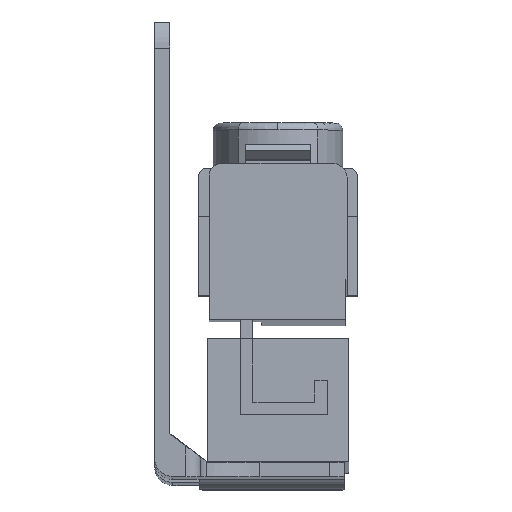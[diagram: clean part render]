
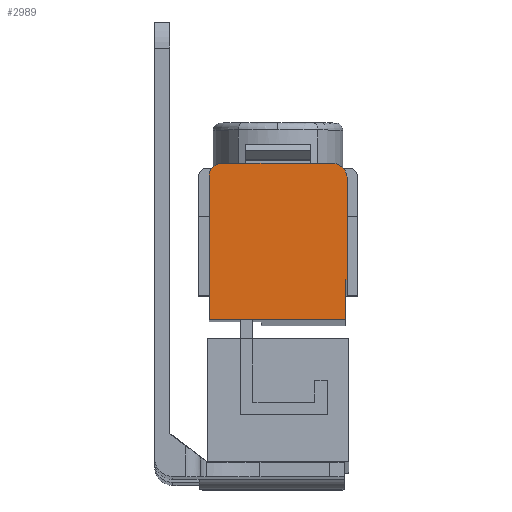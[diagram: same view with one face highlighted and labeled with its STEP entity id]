
A CAD part, front view. The second image highlights one B-rep face of the part: STEP entity #2989.
In plain terms, the highlighted planar face has unit normal (0, -1, 0.007).
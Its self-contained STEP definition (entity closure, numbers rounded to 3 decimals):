
#392 = PLANE ( 'NONE',  #3519 ) ;
#393 = CARTESIAN_POINT ( 'NONE',  ( 9.25, -24.644, -6.282 ) ) ;
#394 = DIRECTION ( 'NONE',  ( 0., -1., 0.007 ) ) ;
#395 = DIRECTION ( 'NONE',  ( 0., -0.007, -1. ) ) ;
#1103 = CARTESIAN_POINT ( 'NONE',  ( 26.25, -24.782, -26.031 ) ) ;
#1104 = DIRECTION ( 'NONE',  ( 0., 0.007, 1. ) ) ;
#1105 = CARTESIAN_POINT ( 'NONE',  ( 26.25, -24.782, -26.031 ) ) ;
#1106 = DIRECTION ( 'NONE',  ( 1., 0., 0. ) ) ;
#1151 = CARTESIAN_POINT ( 'NONE',  ( 26.5, -24.744, -20.531 ) ) ;
#1152 = CARTESIAN_POINT ( 'NONE',  ( 26.5, -24.646, -6.582 ) ) ;
#1154 = CARTESIAN_POINT ( 'NONE',  ( 24.45, -24.632, -4.532 ) ) ;
#1155 = CARTESIAN_POINT ( 'NONE',  ( 9.25, -24.632, -4.532 ) ) ;
#1158 = CARTESIAN_POINT ( 'NONE',  ( 7.5, -24.644, -6.282 ) ) ;
#1159 = CARTESIAN_POINT ( 'NONE',  ( 7.5, -24.782, -26.031 ) ) ;
#1162 = CARTESIAN_POINT ( 'NONE',  ( 26.25, -24.744, -20.531 ) ) ;
#1164 = CARTESIAN_POINT ( 'NONE',  ( 26.25, -24.782, -26.031 ) ) ;
#1326 = ORIENTED_EDGE ( 'NONE', *, *, #2485, .T. ) ;
#1332 = ORIENTED_EDGE ( 'NONE', *, *, #2488, .T. ) ;
#1397 = ORIENTED_EDGE ( 'NONE', *, *, #2480, .T. ) ;
#1481 = ORIENTED_EDGE ( 'NONE', *, *, #3372, .T. ) ;
#1490 = ORIENTED_EDGE ( 'NONE', *, *, #3371, .T. ) ;
#1522 = ORIENTED_EDGE ( 'NONE', *, *, #2492, .T. ) ;
#1527 = ORIENTED_EDGE ( 'NONE', *, *, #2481, .T. ) ;
#1553 = ORIENTED_EDGE ( 'NONE', *, *, #2495, .T. ) ;
#2027 = FACE_OUTER_BOUND ( 'NONE', #3786, .T. ) ;
#2334 = LINE ( 'NONE', #1103, #2335 ) ;
#2335 = VECTOR ( 'NONE', #1104, 1000. ) ;
#2336 = LINE ( 'NONE', #1105, #2337 ) ;
#2337 = VECTOR ( 'NONE', #1106, 1000. ) ;
#2480 = EDGE_CURVE ( 'NONE', #4409, #4398, #3935, .T. ) ;
#2481 = EDGE_CURVE ( 'NONE', #4405, #4406, #3937, .T. ) ;
#2485 = EDGE_CURVE ( 'NONE', #4402, #4405, #3946, .T. ) ;
#2488 = EDGE_CURVE ( 'NONE', #4401, #4402, #3950, .T. ) ;
#2492 = EDGE_CURVE ( 'NONE', #4399, #4401, #3959, .T. ) ;
#2495 = EDGE_CURVE ( 'NONE', #4398, #4399, #3963, .T. ) ;
#2989 = ADVANCED_FACE ( 'NONE', ( #2027 ), #392, .T. ) ;
#3371 = EDGE_CURVE ( 'NONE', #4411, #4409, #2334, .T. ) ;
#3372 = EDGE_CURVE ( 'NONE', #4406, #4411, #2336, .T. ) ;
#3383 = AXIS2_PLACEMENT_3D ( 'NONE', #4711, #4712, #4713 ) ;
#3384 = AXIS2_PLACEMENT_3D ( 'NONE', #4726, #4727, #4728 ) ;
#3519 = AXIS2_PLACEMENT_3D ( 'NONE', #393, #394, #395 ) ;
#3786 = EDGE_LOOP ( 'NONE', ( #1553, #1522, #1332, #1326, #1527, #1481, #1490, #1397 ) ) ;
#3935 = LINE ( 'NONE', #4700, #3936 ) ;
#3936 = VECTOR ( 'NONE', #4696, 1000. ) ;
#3937 = LINE ( 'NONE', #4698, #3938 ) ;
#3938 = VECTOR ( 'NONE', #4692, 1000. ) ;
#3946 = CIRCLE ( 'NONE', #3383, 1.75 ) ;
#3950 = LINE ( 'NONE', #4718, #3951 ) ;
#3951 = VECTOR ( 'NONE', #4719, 1000. ) ;
#3959 = CIRCLE ( 'NONE', #3384, 2.05 ) ;
#3963 = LINE ( 'NONE', #4733, #3964 ) ;
#3964 = VECTOR ( 'NONE', #4734, 1000. ) ;
#4398 = VERTEX_POINT ( 'NONE', #1151 ) ;
#4399 = VERTEX_POINT ( 'NONE', #1152 ) ;
#4401 = VERTEX_POINT ( 'NONE', #1154 ) ;
#4402 = VERTEX_POINT ( 'NONE', #1155 ) ;
#4405 = VERTEX_POINT ( 'NONE', #1158 ) ;
#4406 = VERTEX_POINT ( 'NONE', #1159 ) ;
#4409 = VERTEX_POINT ( 'NONE', #1162 ) ;
#4411 = VERTEX_POINT ( 'NONE', #1164 ) ;
#4692 = DIRECTION ( 'NONE',  ( 0., -0.007, -1. ) ) ;
#4696 = DIRECTION ( 'NONE',  ( 1., 0., 0. ) ) ;
#4698 = CARTESIAN_POINT ( 'NONE',  ( 7.5, -24.644, -6.282 ) ) ;
#4700 = CARTESIAN_POINT ( 'NONE',  ( 7.5, -24.744, -20.531 ) ) ;
#4711 = CARTESIAN_POINT ( 'NONE',  ( 9.25, -24.644, -6.282 ) ) ;
#4712 = DIRECTION ( 'NONE',  ( 0., -1., 0.007 ) ) ;
#4713 = DIRECTION ( 'NONE',  ( 0., -0.007, -1. ) ) ;
#4718 = CARTESIAN_POINT ( 'NONE',  ( 9.25, -24.632, -4.532 ) ) ;
#4719 = DIRECTION ( 'NONE',  ( -1., 0., 0. ) ) ;
#4726 = CARTESIAN_POINT ( 'NONE',  ( 24.45, -24.646, -6.582 ) ) ;
#4727 = DIRECTION ( 'NONE',  ( 0., -1., 0.007 ) ) ;
#4728 = DIRECTION ( 'NONE',  ( 0., 0.007, 1. ) ) ;
#4733 = CARTESIAN_POINT ( 'NONE',  ( 26.5, -24.646, -6.582 ) ) ;
#4734 = DIRECTION ( 'NONE',  ( 0., 0.007, 1. ) ) ;
